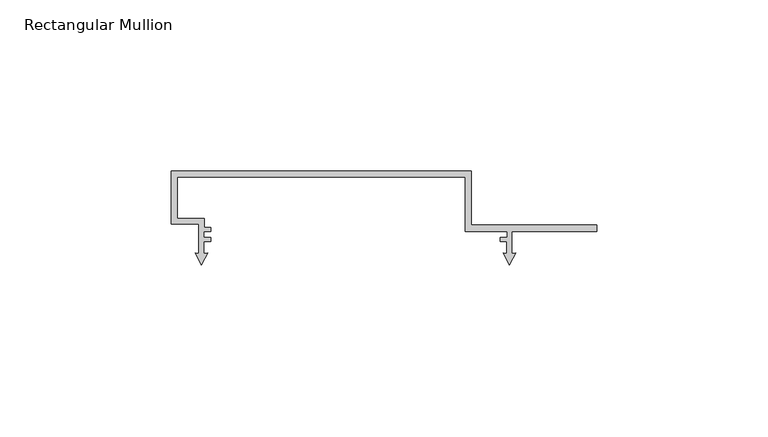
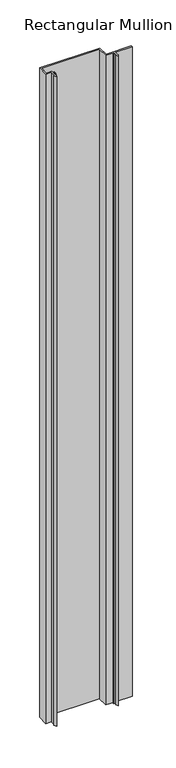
"""IFC4 building model written with IfcOpenShell, lengths in millimetres: member geometry, Rectangular Mullion : Renson_Linarte_LA-B16-Large."""

import ifcopenshell
import ifcopenshell.guid

model = None  # the IFC model being written
_history = None  # IfcOwnerHistory: only IFC2X3 demands one
_inside = {}  # id of a spatial element -> (the spatial element, [elements in it])
_under = {}  # id of a project, library or spatial element -> (it, [spatial elements below it])
_declared = {}  # id of a project -> (the project, [libraries it declares])
_typed = {}  # id of a type object -> (the type object, [elements of that type])
_made_of = {}  # id of a material, layer set ... -> (it, [elements and type objects made of it])


def new_model(schema):
    """Start an empty IFC model of exactly this schema.

    Asked for "IFC4X3", IfcOpenShell would pick the latest addendum, in which some entities
    have other attributes; the version numbers below select the first issue.
    IFC2X3 requires an IfcOwnerHistory on every rooted entity: one is made here for all.
    """
    global model, _history
    if schema == "IFC4X3":
        model = ifcopenshell.file(schema_version=(4, 3, 0, 0))
    else:
        model = ifcopenshell.file(schema=schema)
    _inside.clear()
    _under.clear()
    _declared.clear()
    _typed.clear()
    _made_of.clear()
    _history = None
    if model.schema == "IFC2X3":
        org = make("IfcOrganization", Name="unknown")
        user = make(
            "IfcPersonAndOrganization",
            ThePerson=make("IfcPerson", FamilyName="unknown"),
            TheOrganization=org,
        )
        app = make(
            "IfcApplication",
            ApplicationDeveloper=org,
            Version="unknown",
            ApplicationFullName="unknown",
            ApplicationIdentifier="unknown",
        )
        _history = make(
            "IfcOwnerHistory",
            OwningUser=user,
            OwningApplication=app,
            ChangeAction="ADDED",
            CreationDate=0,
        )
    return model


def make(cls, **values):
    """One entity of the class cls with the attributes given. An attribute that is None is left unset."""
    return model.create_entity(
        cls, **{name: value for name, value in values.items() if value is not None}
    )


def rooted(cls, **values):
    """An entity with a GlobalId (a new one), such as an element, a storey or a relation."""
    return make(cls, GlobalId=ifcopenshell.guid.new(), OwnerHistory=_history, **values)


def si_unit(unit_type, name, prefix=None):
    """IfcSIUnit, for example si_unit("LENGTHUNIT", "METRE", prefix="MILLI")."""
    return make("IfcSIUnit", UnitType=unit_type, Prefix=prefix, Name=name)


def assignment(units):
    """IfcUnitAssignment: the units of a project."""
    return None if units is None else make("IfcUnitAssignment", Units=units)


def point(xyz):
    """IfcCartesianPoint."""
    return None if xyz is None else make("IfcCartesianPoint", Coordinates=xyz)


def direction(xyz):
    """IfcDirection."""
    return None if xyz is None else make("IfcDirection", DirectionRatios=xyz)


def frame(location, z_axis=None, x_axis=None):
    """IfcAxis2Placement3D, a coordinate frame: its origin and axes. An axis left out is left unset."""
    return make(
        "IfcAxis2Placement3D",
        Location=point(location),
        Axis=direction(z_axis),
        RefDirection=direction(x_axis),
    )


def origin():
    """The frame at (0, 0, 0) with its axes left unset."""
    return frame((0.0, 0.0, 0.0))


def place(relative_to, where):
    """IfcLocalPlacement: puts the frame where relative to a parent placement (None: the world)."""
    return make(
        "IfcLocalPlacement", PlacementRelTo=relative_to, RelativePlacement=where
    )


def context(
    kind, dimensions, precision=None, world=None, true_north=None, identifier=None
):
    """IfcGeometricRepresentationContext, for example the 3D "Model" context."""
    return make(
        "IfcGeometricRepresentationContext",
        ContextIdentifier=identifier,
        ContextType=kind,
        CoordinateSpaceDimension=dimensions,
        Precision=precision,
        WorldCoordinateSystem=world,
        TrueNorth=true_north,
    )


def project(units=None, contexts=None):
    """IfcProject with its units and contexts."""
    return rooted(
        "IfcProject",
        Name="project",
        RepresentationContexts=contexts,
        UnitsInContext=assignment(units),
    )


def spatial(cls, under=None, at=None, **own):
    """A site, building, storey or space (cls), placed at a placement, below another one or the project."""
    s = rooted(cls, ObjectPlacement=at, **own)
    if under is not None:
        _under.setdefault(under.id(), (under, []))[1].append(s)
    return s


def polyline(points):
    """IfcPolyline through the points."""
    return make("IfcPolyline", Points=[point(p) for p in points])


def outline(outer, holes=None, kind="AREA"):
    """IfcArbitraryClosedProfileDef: a profile drawn as a closed curve; with holes, ...WithVoids."""
    if holes is None:
        return make("IfcArbitraryClosedProfileDef", ProfileType=kind, OuterCurve=outer)
    return make(
        "IfcArbitraryProfileDefWithVoids",
        ProfileType=kind,
        OuterCurve=outer,
        InnerCurves=holes,
    )


def extrude(swept, where, along, depth):
    """IfcExtrudedAreaSolid: the profile swept, set in the frame where, extruded along a direction by depth."""
    return make(
        "IfcExtrudedAreaSolid",
        SweptArea=swept,
        Position=where,
        ExtrudedDirection=direction(along),
        Depth=depth,
    )


def shape(context_of_items, identifier, shape_type, items):
    """IfcShapeRepresentation: the items that make up one representation, for example the "Body"."""
    return make(
        "IfcShapeRepresentation",
        ContextOfItems=context_of_items,
        RepresentationIdentifier=identifier,
        RepresentationType=shape_type,
        Items=items,
    )


def source(mapping_origin, context_of_items, identifier, shape_type, items):
    """IfcRepresentationMap: a shape defined once, which mapped items show again and again."""
    return make(
        "IfcRepresentationMap",
        MappingOrigin=mapping_origin,
        MappedRepresentation=shape(context_of_items, identifier, shape_type, items),
    )


def transform(
    local_origin,
    x_axis=None,
    y_axis=None,
    z_axis=None,
    scale=None,
    scale2=None,
    scale3=None,
    uniform=True,
):
    """IfcCartesianTransformationOperator3D, or its non-uniform kind. x_axis, y_axis, z_axis: its Axis1, 2, 3."""
    if uniform:
        return make(
            "IfcCartesianTransformationOperator3D",
            Axis1=direction(x_axis),
            Axis2=direction(y_axis),
            LocalOrigin=point(local_origin),
            Scale=scale,
            Axis3=direction(z_axis),
        )
    return make(
        "IfcCartesianTransformationOperator3DnonUniform",
        Axis1=direction(x_axis),
        Axis2=direction(y_axis),
        LocalOrigin=point(local_origin),
        Scale=scale,
        Axis3=direction(z_axis),
        Scale2=scale2,
        Scale3=scale3,
    )


def mapped(mapping_source, mapping_target):
    """IfcMappedItem: shows the shape of a source again, moved by a transform."""
    return make(
        "IfcMappedItem", MappingSource=mapping_source, MappingTarget=mapping_target
    )


def made_of(thing, what):
    """Note that an element or type object is made of a material, layer set ...; save() writes the relation."""
    if what is not None:
        _made_of.setdefault(what.id(), (what, []))[1].append(thing)
    return thing


def element(
    cls,
    number,
    at=None,
    inside=None,
    cuts=None,
    type_object=None,
    material=None,
    context=None,
    identifier="Body",
    shape_type=None,
    held_by="IfcProductDefinitionShape",
    body=None,
    shapes=None,
    **own,
):
    """One element of the class cls, such as IfcWall. Its Tag is "e" and its number.

    at: its placement. inside: the storey or other place that contains it. cuts: it is an
    opening in that element (IfcRelVoidsElement). A single representation is given by context,
    identifier, shape_type and body (its items); several are given by shapes. held_by: the class
    of the entity that holds the representations. save() writes the other relations.
    """
    e = rooted(cls, Tag="e%d" % number, ObjectPlacement=at, **own)
    if body is not None:
        shapes = [shape(context, identifier, shape_type, body)]
    if shapes is not None:
        e.Representation = make(held_by, Representations=shapes)
    if inside is not None:
        _inside.setdefault(inside.id(), (inside, []))[1].append(e)
    if cuts is not None:
        rooted(
            "IfcRelVoidsElement", RelatingBuildingElement=cuts, RelatedOpeningElement=e
        )
    if type_object is not None:
        _typed.setdefault(type_object.id(), (type_object, []))[1].append(e)
    return made_of(e, material)


def aggregate(whole, parts):
    """IfcRelAggregates: a whole, such as a stair, and the parts it consists of."""
    return rooted("IfcRelAggregates", RelatingObject=whole, RelatedObjects=parts)


def save(model, path):
    """Write the relations noted so far, then the file.

    IfcRelAggregates (storeys below a building ...), IfcRelContainedInSpatialStructure (elements
    in a storey), IfcRelDefinesByType, IfcRelAssociatesMaterial and IfcRelDeclares: one each for
    every whole, place, type object, material and project.
    """
    for whole, parts in _under.values():
        aggregate(whole, parts)
    for where, things in _inside.values():
        rooted(
            "IfcRelContainedInSpatialStructure",
            RelatedElements=things,
            RelatingStructure=where,
        )
    for kind, things in _typed.values():
        rooted("IfcRelDefinesByType", RelatedObjects=things, RelatingType=kind)
    for what, things in _made_of.values():
        rooted("IfcRelAssociatesMaterial", RelatedObjects=things, RelatingMaterial=what)
    for by, libraries in _declared.values():
        rooted("IfcRelDeclares", RelatingContext=by, RelatedDefinitions=libraries)
    model.write(path)


def rectangular_mullion_70294d3d(model_context):
    return source(origin(), model_context, "Body", "SweptSolid", [
        extrude(outline(polyline([(87.7, 52.6000001), (87.7, 36.7004291), (124.4501818, 36.7004291), (124.4501818, 34.9056682), (99.55, 34.9056682), (99.55, 28.5038207), (100.6657353, 28.6014348), (98.8499986, 25.0378474), (97.034262, 28.6014348), (98.1499998, 28.5038204), (98.1499998, 31.9), (96.1577357, 31.9), (96.1577357, 33.1008285), (98.2499988, 33.1008285), (98.2499988, 34.9), (85.9, 34.9), (85.9, 50.8), (1.8, 50.8), (1.8, 38.5997951), (9.65879, 38.5997951), (9.65879, 36.101526), (11.5373999, 36.101526), (11.5373999, 34.9), (9.5585026, 34.9), (9.5585026, 33.1004432), (11.5368851, 33.1004432), (11.5368851, 31.8983556), (9.549322, 31.8983556), (9.549322, 28.5038206), (10.6650584, 28.6014348), (8.8493218, 25.0378474), (7.0335853, 28.6014348), (8.1493217, 28.5038205), (8.1493217, 37.0995654), (0.0, 37.0995654), (0.0, 52.6000001), (87.7, 52.6000001)])), frame((0.0, 0.0, -1000.0), z_axis=(0.0, 0.0, 1.0), x_axis=(1.0, 0.0, 0.0)), (0.0, 0.0, 1.0), 1000.0),
    ])


if __name__ == "__main__":
    model = new_model("IFC4")
    model_context = context("Model", 3, world=origin())
    ifc_project = project(units=[si_unit("LENGTHUNIT", "METRE", prefix="MILLI")], contexts=[model_context])
    site = spatial("IfcSite", under=ifc_project)
    building = spatial("IfcBuilding", under=site)
    placement = place(None, origin())
    rectangular_mullion_shape = rectangular_mullion_70294d3d(model_context)
    element("IfcMember", 1, ObjectType="Rectangular Mullion : Renson_Linarte_LA-B16-Large", at=placement, inside=building, context=model_context, shape_type="MappedRepresentation", body=[
        mapped(rectangular_mullion_shape, transform((0.0, 0.0, 0.0), x_axis=(1.0, 0.0, 0.0), y_axis=(0.0, 1.0, 0.0), z_axis=(0.0, 0.0, 1.0))),
    ])
    save(model, "model.ifc")
